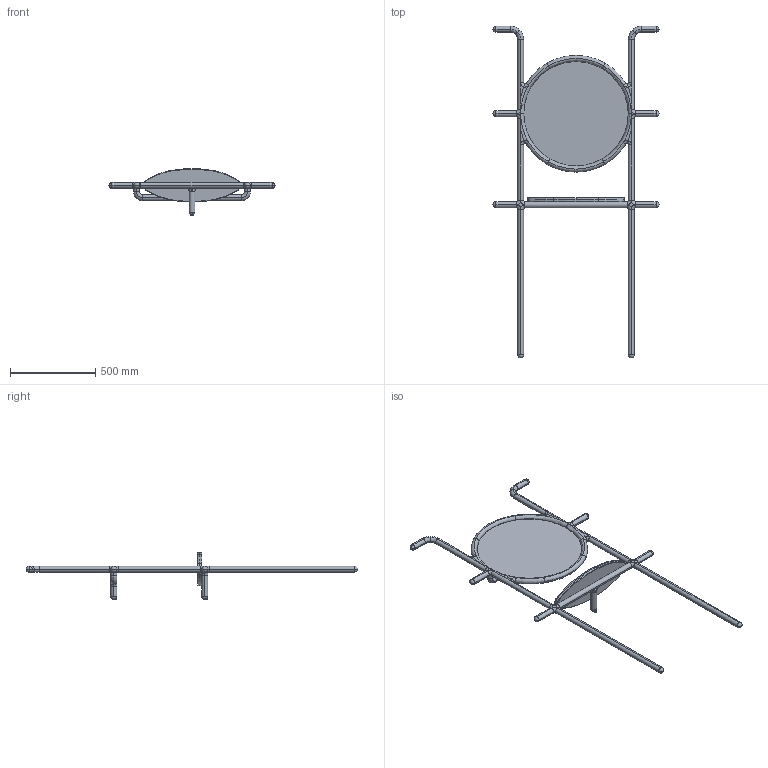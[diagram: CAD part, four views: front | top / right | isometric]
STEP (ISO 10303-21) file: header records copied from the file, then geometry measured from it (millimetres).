
FILE_DESCRIPTION (( 'STEP AP203' ), '1' );
FILE_NAME ('CRICKET HANGER WITH MIRROR.STEP', '2023-03-21T12:08:09', ( '' ), ( '' ), 'SwSTEP 2.0', 'SolidWorks 2023', '' );
FILE_SCHEMA (( 'CONFIG_CONTROL_DESIGN' ));
Length unit declared in the file: millimetre
Products named in the file (2): CRICKET HANGER WITH MIRROR; Group1^CRICKET HANGER WITH MIRROR
Assembly tree (1 placements, depth 2):
  CRICKET HANGER WITH MIRROR
    Group1^CRICKET HANGER WITH MIRROR
Bounding box: 976 x 1950 x 275 mm (x, y, z)
Volume: 13725699.3 mm3; surface area: 1691596.6 mm2
Topology: 3 solids, 3 shells, 394 faces, 917 edges, 489 vertices
Faces by surface type: torus 142, cylinder 125, plane 87, sphere 24, cone 16
Entity records: 11556 total; most frequent: CARTESIAN_POINT 2267, DIRECTION 2248, ORIENTED_EDGE 1766, AXIS2_PLACEMENT_3D 994, EDGE_CURVE 883, CIRCLE 596, VERTEX_POINT 487, FACE_OUTER_BOUND 394
